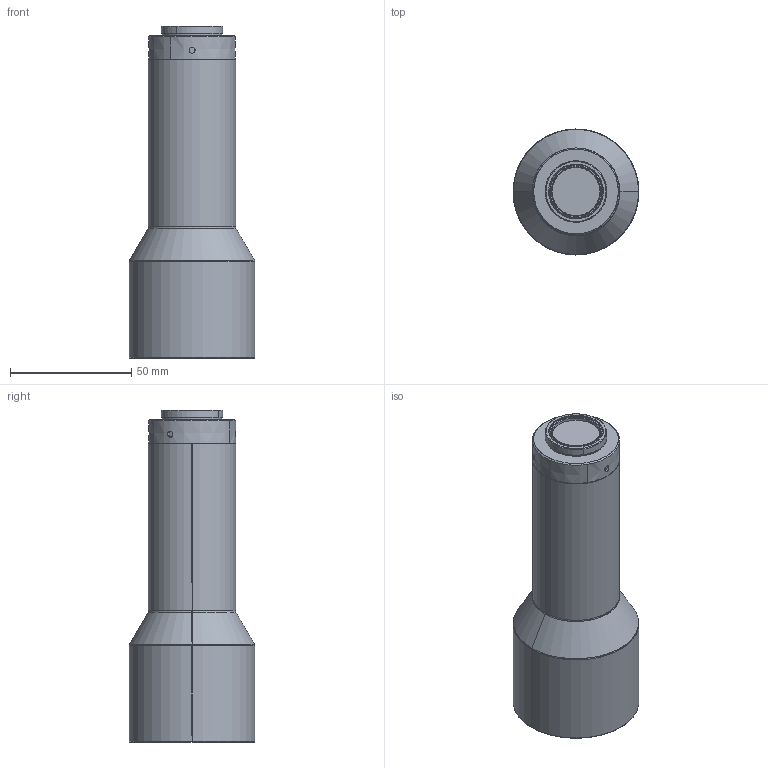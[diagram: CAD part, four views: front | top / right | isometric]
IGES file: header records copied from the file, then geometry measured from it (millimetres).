
Start section: SolidWorks IGES file using analytic representation for surfaces
Global section: file name: E:\图纸\镜头\WWK\K05063-110系列\WWK05-110-111V3\A2.0\发客户3D\WWK05-110-111V3.IGS; native system: SolidWorks 2017; preprocessor: SolidWorks 2017; author: gc; date: 230323.165242; units: millimetre
Bounding box: 52 x 52 x 137.17 mm (x, y, z)
Surface area: 21493.2 mm2 (no closed solid volume)
Topology: 0 solids, 0 shells, 55 faces, 1096 edges, 1096 vertices
Faces by surface type: revolution 43, bspline 12
